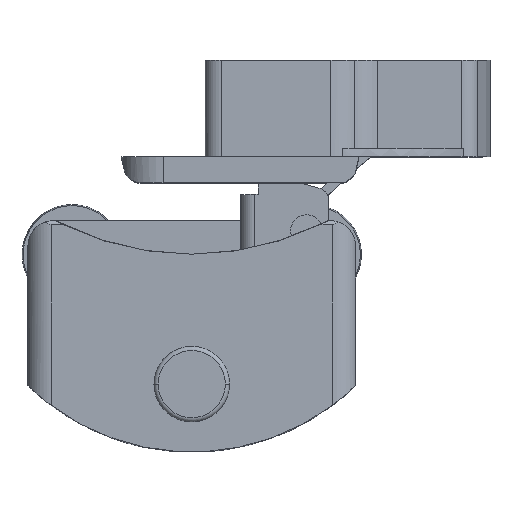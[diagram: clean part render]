
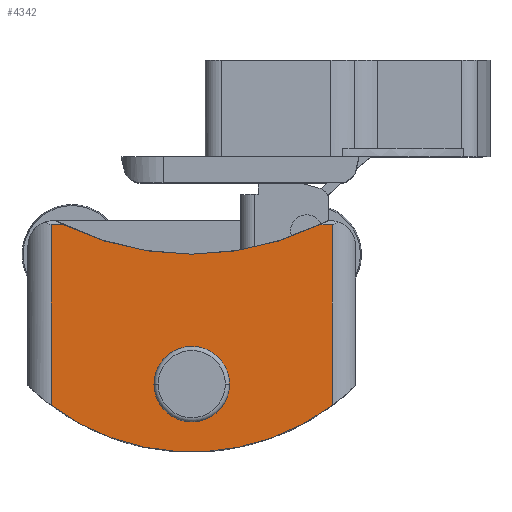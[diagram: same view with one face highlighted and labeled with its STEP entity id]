
A CAD part, top view. The second image highlights one B-rep face of the part: STEP entity #4342.
In plain terms, the highlighted planar face has unit normal (0, 0, 1).
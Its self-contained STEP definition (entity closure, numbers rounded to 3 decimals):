
#1984 = EDGE_CURVE( '', #3540, #3120, #5835, .T. );
#2138 = VERTEX_POINT( '', #6003 );
#2334 = VERTEX_POINT( '', #6215 );
#2544 = VERTEX_POINT( '', #6440 );
#3120 = VERTEX_POINT( '', #7081 );
#3156 = EDGE_CURVE( '', #3348, #2334, #7120, .T. );
#3348 = VERTEX_POINT( '', #7334 );
#3540 = VERTEX_POINT( '', #7544 );
#3680 = EDGE_CURVE( '', #2138, #3732, #7701, .T. );
#3732 = VERTEX_POINT( '', #7758 );
#3758 = EDGE_CURVE( '', #2544, #3732, #7788, .T. );
#3848 = EDGE_CURVE( '', #3938, #4118, #7882, .T. );
#3938 = VERTEX_POINT( '', #7980 );
#3952 = EDGE_CURVE( '', #4562, #3540, #7994, .T. );
#4118 = VERTEX_POINT( '', #8178 );
#4342 = ADVANCED_FACE( '', ( #8417, #8418 ), #8419, .T. );
#4432 = EDGE_CURVE( '', #3120, #2544, #8518, .T. );
#4450 = EDGE_CURVE( '', #3348, #4562, #8540, .T. );
#4562 = VERTEX_POINT( '', #8661 );
#4748 = EDGE_CURVE( '', #4118, #3938, #8863, .T. );
#5764 = EDGE_CURVE( '', #2138, #2334, #9973, .T. );
#5835 = LINE( '', #10043, #10044 );
#6003 = CARTESIAN_POINT( '', ( -16.75, -17.337, 31.2 ) );
#6215 = CARTESIAN_POINT( '', ( -1.673, -22.85, 31.2 ) );
#6440 = CARTESIAN_POINT( '', ( -15.258, 4.15, 31.2 ) );
#7081 = CARTESIAN_POINT( '', ( 15.258, 4.15, 31.2 ) );
#7120 = LINE( '', #11903, #11904 );
#7334 = CARTESIAN_POINT( '', ( 1.673, -22.85, 31.2 ) );
#7544 = CARTESIAN_POINT( '', ( 16.75, 4.15, 31.2 ) );
#7701 = LINE( '', #12720, #12721 );
#7758 = CARTESIAN_POINT( '', ( -16.75, 4.15, 31.2 ) );
#7788 = LINE( '', #12839, #12840 );
#7882 = CIRCLE( '', #12963, 4. );
#7980 = CARTESIAN_POINT( '', ( 4., -14.85, 31.2 ) );
#7994 = LINE( '', #13140, #13141 );
#8178 = CARTESIAN_POINT( '', ( -4., -14.85, 31.2 ) );
#8417 = FACE_BOUND( '', #13806, .T. );
#8418 = FACE_OUTER_BOUND( '', #13807, .T. );
#8419 = PLANE( '', #13808 );
#8518 = CIRCLE( '', #13936, 35.008 );
#8540 = CIRCLE( '', #13965, 28. );
#8661 = CARTESIAN_POINT( '', ( 16.75, -17.337, 31.2 ) );
#8863 = CIRCLE( '', #14424, 4. );
#9973 = CIRCLE( '', #16044, 28. );
#10043 = CARTESIAN_POINT( '', ( 19.75, 4.15, 31.2 ) );
#10044 = VECTOR( '', #16115, 1. );
#11903 = CARTESIAN_POINT( '', ( 19.75, -22.85, 31.2 ) );
#11904 = VECTOR( '', #17505, 1. );
#12720 = CARTESIAN_POINT( '', ( -16.75, -13.75, 31.2 ) );
#12721 = VECTOR( '', #18301, 1. );
#12839 = CARTESIAN_POINT( '', ( 19.75, 4.15, 31.2 ) );
#12840 = VECTOR( '', #18391, 1. );
#12963 = AXIS2_PLACEMENT_3D( '', #18454, #18455, #18456 );
#13140 = CARTESIAN_POINT( '', ( 16.75, -13.75, 31.2 ) );
#13141 = VECTOR( '', #18566, 1. );
#13806 = EDGE_LOOP( '', ( #19043, #19044 ) );
#13807 = EDGE_LOOP( '', ( #19045, #19046, #19047, #19048, #19049, #19050, #19051, #19052 ) );
#13808 = AXIS2_PLACEMENT_3D( '', #19053, #19054, #19055 );
#13936 = AXIS2_PLACEMENT_3D( '', #19160, #19161, #19162 );
#13965 = AXIS2_PLACEMENT_3D( '', #19190, #19191, #19192 );
#14424 = AXIS2_PLACEMENT_3D( '', #19527, #19528, #19529 );
#16044 = AXIS2_PLACEMENT_3D( '', #20690, #20691, #20692 );
#16115 = DIRECTION( '', ( -1., 0., 0. ) );
#17505 = DIRECTION( '', ( -1., 0., 0. ) );
#18301 = DIRECTION( '', ( 0., 1., 0. ) );
#18391 = DIRECTION( '', ( -1., 0., 0. ) );
#18454 = CARTESIAN_POINT( '', ( 0., -14.85, 31.2 ) );
#18455 = DIRECTION( '', ( 0., 0., -1. ) );
#18456 = DIRECTION( '', ( -1., 0., 0. ) );
#18566 = DIRECTION( '', ( 0., 1., 0. ) );
#19043 = ORIENTED_EDGE( '', *, *, #4748, .T. );
#19044 = ORIENTED_EDGE( '', *, *, #3848, .T. );
#19045 = ORIENTED_EDGE( '', *, *, #4432, .T. );
#19046 = ORIENTED_EDGE( '', *, *, #3758, .T. );
#19047 = ORIENTED_EDGE( '', *, *, #3680, .F. );
#19048 = ORIENTED_EDGE( '', *, *, #5764, .T. );
#19049 = ORIENTED_EDGE( '', *, *, #3156, .F. );
#19050 = ORIENTED_EDGE( '', *, *, #4450, .T. );
#19051 = ORIENTED_EDGE( '', *, *, #3952, .T. );
#19052 = ORIENTED_EDGE( '', *, *, #1984, .T. );
#19053 = CARTESIAN_POINT( '', ( 19.75, 4.15, 31.2 ) );
#19054 = DIRECTION( '', ( 0., 0., 1. ) );
#19055 = DIRECTION( '', ( 0., 1., 0. ) );
#19160 = CARTESIAN_POINT( '', ( 0., 35.658, 31.2 ) );
#19161 = DIRECTION( '', ( 0., 0., -1. ) );
#19162 = DIRECTION( '', ( -0.464, -0.886, 0. ) );
#19190 = CARTESIAN_POINT( '', ( 0., 5.1, 31.2 ) );
#19191 = DIRECTION( '', ( 0., 0., 1. ) );
#19192 = DIRECTION( '', ( 0.705, -0.709, 0. ) );
#19527 = CARTESIAN_POINT( '', ( 0., -14.85, 31.2 ) );
#19528 = DIRECTION( '', ( 0., 0., -1. ) );
#19529 = DIRECTION( '', ( -1., 0., 0. ) );
#20690 = CARTESIAN_POINT( '', ( 0., 5.1, 31.2 ) );
#20691 = DIRECTION( '', ( 0., 0., 1. ) );
#20692 = DIRECTION( '', ( 0.705, -0.709, 0. ) );
